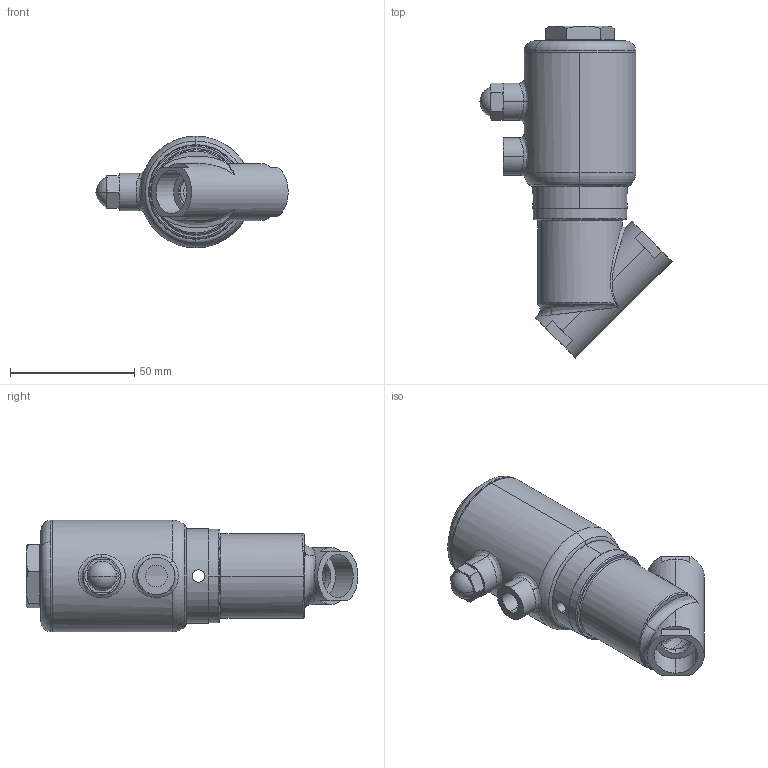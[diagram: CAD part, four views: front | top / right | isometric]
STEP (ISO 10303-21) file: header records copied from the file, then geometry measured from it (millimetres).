
FILE_DESCRIPTION (( 'STEP AP203' ), '1' );
FILE_NAME ('PCIPFM_010_0_4.STEP', '2016-09-29T09:35:07', ( 'user' ), ( '' ), 'SwSTEP 2.0', 'SolidWorks 2013', '' );
FILE_SCHEMA (( 'CONFIG_CONTROL_DESIGN' ));
Length unit declared in the file: millimetre
Products named in the file (1): PCIPFM_010_0_4
Bounding box: 77.4 x 133.7 x 45 mm (x, y, z)
Surface area: 23609.1 mm2 (no closed solid volume)
Topology: 0 solids, 5 shells, 128 faces, 342 edges, 223 vertices
Faces by surface type: cylinder 41, plane 37, bspline 18, cone 16, torus 14, sphere 2
Entity records: 6397 total; most frequent: CARTESIAN_POINT 3340, ORIENTED_EDGE 628, DIRECTION 584, EDGE_CURVE 340, AXIS2_PLACEMENT_3D 245, VERTEX_POINT 223, EDGE_LOOP 145, CIRCLE 134
